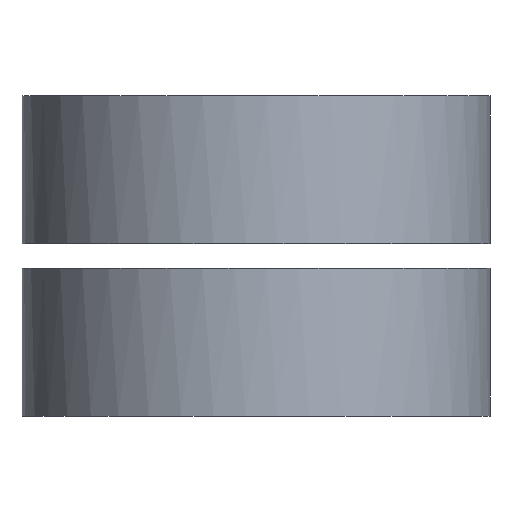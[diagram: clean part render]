
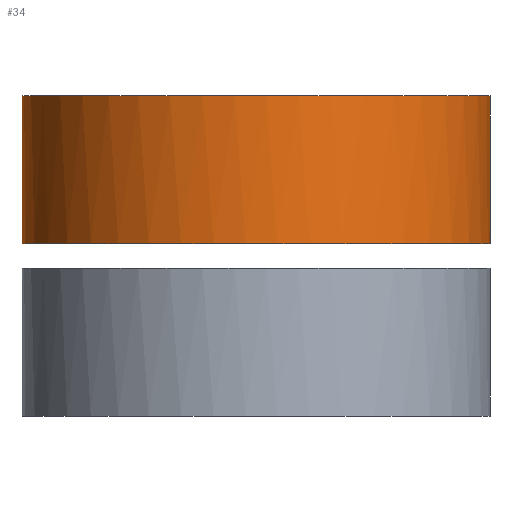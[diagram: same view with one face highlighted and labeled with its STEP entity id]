
A CAD part, left-side view. The second image highlights one B-rep face of the part: STEP entity #34.
In plain terms, the highlighted free-form (B-spline) face has degree [2, 1] with [9, 2] control points.
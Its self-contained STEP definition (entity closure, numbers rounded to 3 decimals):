
#34=ADVANCED_FACE('',(#40),#196,.T.);
#40=FACE_OUTER_BOUND('',#46,.T.);
#46=EDGE_LOOP('',(#54,#55,#56,#57));
#54=ORIENTED_EDGE('',*,*,#154,.T.);
#55=ORIENTED_EDGE('',*,*,#155,.T.);
#56=ORIENTED_EDGE('',*,*,#156,.T.);
#57=ORIENTED_EDGE('',*,*,#157,.T.);
#78=PCURVE('',#196,#102);
#79=PCURVE('',#196,#103);
#80=PCURVE('',#196,#104);
#81=PCURVE('',#196,#105);
#87=PCURVE('',#194,#111);
#90=PCURVE('',#195,#114);
#95=PCURVE('',#198,#119);
#97=PCURVE('',#198,#121);
#102=DEFINITIONAL_REPRESENTATION('',(#126),#466);
#103=DEFINITIONAL_REPRESENTATION('',(#127),#466);
#104=DEFINITIONAL_REPRESENTATION('',(#128),#466);
#105=DEFINITIONAL_REPRESENTATION('',(#129),#466);
#111=DEFINITIONAL_REPRESENTATION('',(#176),#466);
#114=DEFINITIONAL_REPRESENTATION('',(#180),#466);
#119=DEFINITIONAL_REPRESENTATION('',(#135),#466);
#121=DEFINITIONAL_REPRESENTATION('',(#137),#466);
#126=B_SPLINE_CURVE_WITH_KNOTS('',1,(#345,#346),.UNSPECIFIED.,.F.,.F.,(2,
2),(0.,6.),.UNSPECIFIED.);
#127=B_SPLINE_CURVE_WITH_KNOTS('',1,(#352,#353),.UNSPECIFIED.,.F.,.F.,(2,
2),(-29.845,0.),.UNSPECIFIED.);
#128=B_SPLINE_CURVE_WITH_KNOTS('',1,(#356,#357),.UNSPECIFIED.,.F.,.F.,(2,
2),(-6.,0.),.UNSPECIFIED.);
#129=B_SPLINE_CURVE_WITH_KNOTS('',1,(#363,#364),.UNSPECIFIED.,.F.,.F.,(2,
2),(0.,29.845),.UNSPECIFIED.);
#135=B_SPLINE_CURVE_WITH_KNOTS('',1,(#449,#450),.UNSPECIFIED.,.F.,.F.,(2,
2),(-6.,0.),.UNSPECIFIED.);
#137=B_SPLINE_CURVE_WITH_KNOTS('',1,(#453,#454),.UNSPECIFIED.,.F.,.F.,(2,
2),(0.,6.),.UNSPECIFIED.);
#142=SURFACE_CURVE('',#166,(#78,#97),.PCURVE_S1.);
#143=SURFACE_CURVE('',#167,(#79,#90),.PCURVE_S1.);
#144=SURFACE_CURVE('',#168,(#80,#95),.PCURVE_S1.);
#145=SURFACE_CURVE('',#169,(#81,#87),.PCURVE_S1.);
#154=EDGE_CURVE('',#190,#191,#142,.T.);
#155=EDGE_CURVE('',#191,#187,#143,.T.);
#156=EDGE_CURVE('',#187,#186,#144,.T.);
#157=EDGE_CURVE('',#186,#190,#145,.T.);
#166=(
BOUNDED_CURVE()
B_SPLINE_CURVE(1,(#343,#344),.UNSPECIFIED.,.F.,.F.)
B_SPLINE_CURVE_WITH_KNOTS((2,2),(0.,6.),.UNSPECIFIED.)
CURVE()
GEOMETRIC_REPRESENTATION_ITEM()
RATIONAL_B_SPLINE_CURVE((1.,1.))
REPRESENTATION_ITEM('')
);
#167=(
BOUNDED_CURVE()
B_SPLINE_CURVE(2,(#347,#348,#349,#350,#351),.UNSPECIFIED.,.F.,.F.)
B_SPLINE_CURVE_WITH_KNOTS((3,2,3),(-29.845,-14.923,0.),
 .UNSPECIFIED.)
CURVE()
GEOMETRIC_REPRESENTATION_ITEM()
RATIONAL_B_SPLINE_CURVE((1.,0.707,1.,0.707,1.))
REPRESENTATION_ITEM('')
);
#168=(
BOUNDED_CURVE()
B_SPLINE_CURVE(1,(#354,#355),.UNSPECIFIED.,.F.,.F.)
B_SPLINE_CURVE_WITH_KNOTS((2,2),(-6.,0.),.UNSPECIFIED.)
CURVE()
GEOMETRIC_REPRESENTATION_ITEM()
RATIONAL_B_SPLINE_CURVE((1.,1.))
REPRESENTATION_ITEM('')
);
#169=(
BOUNDED_CURVE()
B_SPLINE_CURVE(2,(#358,#359,#360,#361,#362),.UNSPECIFIED.,.F.,.F.)
B_SPLINE_CURVE_WITH_KNOTS((3,2,3),(0.,14.923,29.845),
 .UNSPECIFIED.)
CURVE()
GEOMETRIC_REPRESENTATION_ITEM()
RATIONAL_B_SPLINE_CURVE((1.,0.707,1.,0.707,1.))
REPRESENTATION_ITEM('')
);
#176=(
BOUNDED_CURVE()
B_SPLINE_CURVE(2,(#397,#398,#399,#400,#401),.UNSPECIFIED.,.F.,.F.)
B_SPLINE_CURVE_WITH_KNOTS((3,2,3),(0.,14.923,29.845),
 .UNSPECIFIED.)
CURVE()
GEOMETRIC_REPRESENTATION_ITEM()
RATIONAL_B_SPLINE_CURVE((1.,0.707,1.,0.707,1.))
REPRESENTATION_ITEM('')
);
#180=(
BOUNDED_CURVE()
B_SPLINE_CURVE(2,(#417,#418,#419,#420,#421),.UNSPECIFIED.,.F.,.F.)
B_SPLINE_CURVE_WITH_KNOTS((3,2,3),(-29.845,-14.923,0.),
 .UNSPECIFIED.)
CURVE()
GEOMETRIC_REPRESENTATION_ITEM()
RATIONAL_B_SPLINE_CURVE((1.,0.707,1.,0.707,1.))
REPRESENTATION_ITEM('')
);
#186=VERTEX_POINT('',#335);
#187=VERTEX_POINT('',#336);
#190=VERTEX_POINT('',#339);
#191=VERTEX_POINT('',#340);
#194=PLANE('',#242);
#195=PLANE('',#243);
#196=(
BOUNDED_SURFACE()
B_SPLINE_SURFACE(2,1,((#261,#262),(#263,#264),(#265,#266),(#267,#268),(#269,
#270),(#271,#272),(#273,#274),(#275,#276),(#277,#278)),.UNSPECIFIED.,.T.,
 .F.,.F.)
B_SPLINE_SURFACE_WITH_KNOTS((3,2,2,2,3),(2,2),(0.,14.923,29.845,
44.768,59.69),(0.,6.),.UNSPECIFIED.)
GEOMETRIC_REPRESENTATION_ITEM()
RATIONAL_B_SPLINE_SURFACE(((1.,1.),(0.707,0.707),
(1.,1.),(0.707,0.707),(1.,1.),(0.707,
0.707),(1.,1.),(0.707,0.707),(1.,1.)))
REPRESENTATION_ITEM('')
SURFACE()
);
#198=(
BOUNDED_SURFACE()
B_SPLINE_SURFACE(2,1,((#299,#300),(#301,#302),(#303,#304),(#305,#306),(#307,
#308),(#309,#310),(#311,#312),(#313,#314),(#315,#316)),.UNSPECIFIED.,.T.,
 .F.,.F.)
B_SPLINE_SURFACE_WITH_KNOTS((3,2,2,2,3),(2,2),(0.,14.923,29.845,
44.768,59.69),(0.,6.),.UNSPECIFIED.)
GEOMETRIC_REPRESENTATION_ITEM()
RATIONAL_B_SPLINE_SURFACE(((1.,1.),(0.707,0.707),
(1.,1.),(0.707,0.707),(1.,1.),(0.707,
0.707),(1.,1.),(0.707,0.707),(1.,1.)))
REPRESENTATION_ITEM('')
SURFACE()
);
#242=AXIS2_PLACEMENT_3D('',#297,#251,$);
#243=AXIS2_PLACEMENT_3D('',#298,#252,$);
#251=DIRECTION('',(0.,0.,-1.));
#252=DIRECTION('',(0.,0.,1.));
#261=CARTESIAN_POINT('',(9.5,0.,0.));
#262=CARTESIAN_POINT('',(9.5,0.,6.));
#263=CARTESIAN_POINT('',(9.5,9.5,0.));
#264=CARTESIAN_POINT('',(9.5,9.5,6.));
#265=CARTESIAN_POINT('',(0.,9.5,0.));
#266=CARTESIAN_POINT('',(0.,9.5,6.));
#267=CARTESIAN_POINT('',(-9.5,9.5,0.));
#268=CARTESIAN_POINT('',(-9.5,9.5,6.));
#269=CARTESIAN_POINT('',(-9.5,0.,0.));
#270=CARTESIAN_POINT('',(-9.5,0.,6.));
#271=CARTESIAN_POINT('',(-9.5,-9.5,0.));
#272=CARTESIAN_POINT('',(-9.5,-9.5,6.));
#273=CARTESIAN_POINT('',(0.,-9.5,0.));
#274=CARTESIAN_POINT('',(0.,-9.5,6.));
#275=CARTESIAN_POINT('',(9.5,-9.5,0.));
#276=CARTESIAN_POINT('',(9.5,-9.5,6.));
#277=CARTESIAN_POINT('',(9.5,0.,0.));
#278=CARTESIAN_POINT('',(9.5,0.,6.));
#297=CARTESIAN_POINT('',(-11.875,-11.875,0.));
#298=CARTESIAN_POINT('',(-11.875,-11.875,6.));
#299=CARTESIAN_POINT('',(9.5,0.,0.));
#300=CARTESIAN_POINT('',(9.5,0.,6.));
#301=CARTESIAN_POINT('',(9.5,9.5,0.));
#302=CARTESIAN_POINT('',(9.5,9.5,6.));
#303=CARTESIAN_POINT('',(0.,9.5,0.));
#304=CARTESIAN_POINT('',(0.,9.5,6.));
#305=CARTESIAN_POINT('',(-9.5,9.5,0.));
#306=CARTESIAN_POINT('',(-9.5,9.5,6.));
#307=CARTESIAN_POINT('',(-9.5,0.,0.));
#308=CARTESIAN_POINT('',(-9.5,0.,6.));
#309=CARTESIAN_POINT('',(-9.5,-9.5,0.));
#310=CARTESIAN_POINT('',(-9.5,-9.5,6.));
#311=CARTESIAN_POINT('',(0.,-9.5,0.));
#312=CARTESIAN_POINT('',(0.,-9.5,6.));
#313=CARTESIAN_POINT('',(9.5,-9.5,0.));
#314=CARTESIAN_POINT('',(9.5,-9.5,6.));
#315=CARTESIAN_POINT('',(9.5,0.,0.));
#316=CARTESIAN_POINT('',(9.5,0.,6.));
#335=CARTESIAN_POINT('',(9.5,0.,0.));
#336=CARTESIAN_POINT('',(9.5,0.,6.));
#339=CARTESIAN_POINT('',(-9.5,0.,0.));
#340=CARTESIAN_POINT('',(-9.5,0.,6.));
#343=CARTESIAN_POINT('',(-9.5,0.,0.));
#344=CARTESIAN_POINT('',(-9.5,0.,6.));
#345=CARTESIAN_POINT('',(29.845,0.));
#346=CARTESIAN_POINT('',(29.845,6.));
#347=CARTESIAN_POINT('',(-9.5,0.,6.));
#348=CARTESIAN_POINT('',(-9.5,9.5,6.));
#349=CARTESIAN_POINT('',(0.,9.5,6.));
#350=CARTESIAN_POINT('',(9.5,9.5,6.));
#351=CARTESIAN_POINT('',(9.5,0.,6.));
#352=CARTESIAN_POINT('',(29.845,6.));
#353=CARTESIAN_POINT('',(0.,6.));
#354=CARTESIAN_POINT('',(9.5,0.,6.));
#355=CARTESIAN_POINT('',(9.5,0.,0.));
#356=CARTESIAN_POINT('',(0.,6.));
#357=CARTESIAN_POINT('',(0.,0.));
#358=CARTESIAN_POINT('',(9.5,0.,0.));
#359=CARTESIAN_POINT('',(9.5,9.5,0.));
#360=CARTESIAN_POINT('',(0.,9.5,0.));
#361=CARTESIAN_POINT('',(-9.5,9.5,0.));
#362=CARTESIAN_POINT('',(-9.5,0.,0.));
#363=CARTESIAN_POINT('',(0.,0.));
#364=CARTESIAN_POINT('',(29.845,0.));
#397=CARTESIAN_POINT('',(0.,0.));
#398=CARTESIAN_POINT('',(9.5,0.));
#399=CARTESIAN_POINT('',(9.5,-9.5));
#400=CARTESIAN_POINT('',(9.5,-19.));
#401=CARTESIAN_POINT('',(0.,-19.));
#417=CARTESIAN_POINT('',(-19.,0.));
#418=CARTESIAN_POINT('',(-19.,9.5));
#419=CARTESIAN_POINT('',(-9.5,9.5));
#420=CARTESIAN_POINT('',(0.,9.5));
#421=CARTESIAN_POINT('',(0.,0.));
#449=CARTESIAN_POINT('',(59.69,6.));
#450=CARTESIAN_POINT('',(59.69,0.));
#453=CARTESIAN_POINT('',(29.845,0.));
#454=CARTESIAN_POINT('',(29.845,6.));
#466=(
GEOMETRIC_REPRESENTATION_CONTEXT(2)
PARAMETRIC_REPRESENTATION_CONTEXT()
REPRESENTATION_CONTEXT('pspace','')
);
